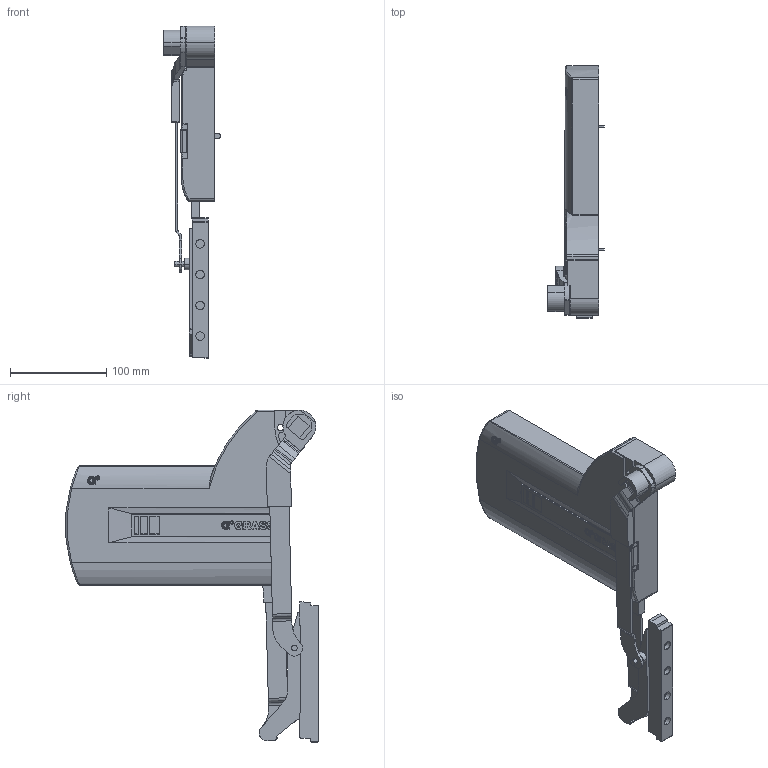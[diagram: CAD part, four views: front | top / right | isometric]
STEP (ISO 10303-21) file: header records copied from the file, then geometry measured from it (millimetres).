
FILE_DESCRIPTION (( 'STEP AP203' ), '1' );
FILE_NAME ('Kinvaro_L-80_Typ3_rechts_D2806013125~b.step', '2012-05-04T06:35:53', ( 'admin' ), ( 'Hewlett-Packard Company' ), 'SwSTEP 2.0', 'SolidWorks 2011', '' );
FILE_SCHEMA (( 'CONFIG_CONTROL_DESIGN' ));
Length unit declared in the file: millimetre
Products named in the file (1): Kinvaro_L-80_Typ3_rechts_D2806013125~b
Bounding box: 59 x 262.07 x 344.96 mm (x, y, z)
Volume: 1201457.2 mm3; surface area: 136577.2 mm2
Topology: 1 solids, 1 shells, 608 faces, 1682 edges, 1097 vertices
Faces by surface type: cylinder 324, plane 242, bspline 22, torus 18, sphere 2
Entity records: 20405 total; most frequent: CARTESIAN_POINT 4855, ORIENTED_EDGE 3358, DIRECTION 3197, EDGE_CURVE 1679, AXIS2_PLACEMENT_3D 1149, VERTEX_POINT 1097, LINE 899, VECTOR 899
